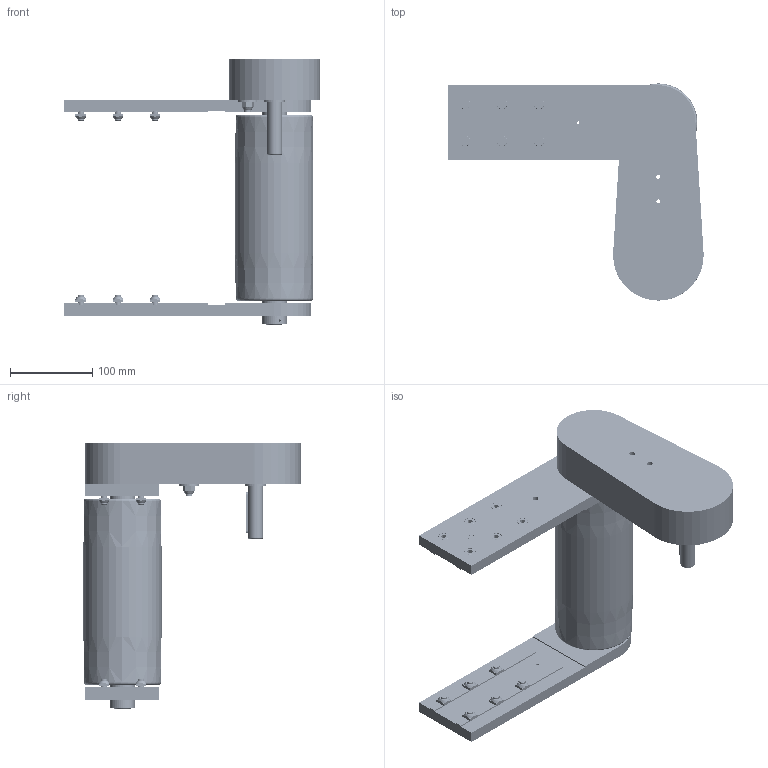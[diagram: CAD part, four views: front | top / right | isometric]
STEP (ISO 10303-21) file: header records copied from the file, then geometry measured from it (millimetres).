
FILE_DESCRIPTION (( 'STEP AP203' ), '1' );
FILE_NAME ('084.095.KTC.44.200.STEP', '2019-07-30T07:37:28', ( '' ), ( '' ), 'SwSTEP 2.0', 'SolidWorks 2018', '' );
FILE_SCHEMA (( 'CONFIG_CONTROL_DESIGN' ));
Length unit declared in the file: millimetre
Products named in the file (24): 084.803.012; 084.813.004; CHIAVETTE_A 6x6x50 UNI 6604-69; 084.812.003; 084.803.014; RONDELLE FASCIA LARGA UNI 6593_8.4x24 UNI 6593; 084.809.003; 084.809.001; 084.813.002; 084.802.019_084.802.019; 084.095.KTC.44.200; 084.810.010; 084.816.101_084.816.107<A macchina>; 084.808.002_084.808.002; 084.808.003_084.808.003; 084.810.005; 084.301.000 VITI ALUSIC_084.301.003; 084.802.034_084.802.034; 084.810.004; DADI ESAGONALI AUTOBLOCCANTI UNI 7473 INOX_M8 UNI 7473 INOX; 084.302.000 DADI ALUSIC 13x13_084.302.004; Circlip DIN 471 - 8 x 0.8_Circlip DIN 471 - 8 x 0.8; 084.810.003; CUSCINETTI A SFERE_608-2RS
Assembly tree (48 placements, depth 3):
  084.095.KTC.44.200
    084.816.101_084.816.107<A macchina>
    084.812.003
    084.813.002
    084.810.003  x2
    084.802.034_084.802.034
    084.802.019_084.802.019
    084.808.003_084.808.003
    084.808.002_084.808.002
    084.809.001
    084.803.014  x2
    084.803.012
    CHIAVETTE_A 6x6x50 UNI 6604-69
    084.810.005
      084.810.010
      084.810.004
      CUSCINETTI A SFERE_608-2RS  x2
      Circlip DIN 471 - 8 x 0.8_Circlip DIN 471 - 8 x 0.8
      RONDELLE FASCIA LARGA UNI 6593_8.4x24 UNI 6593
      DADI ESAGONALI AUTOBLOCCANTI UNI 7473 INOX_M8 UNI 7473 INOX
    084.809.003
    084.301.000 VITI ALUSIC_084.301.003  x12
    084.302.000 DADI ALUSIC 13x13_084.302.004  x12
    084.813.004
Bounding box: 310 x 264 x 323.5 mm (x, y, z)
Volume: 1654907.9 mm3; surface area: 699651.5 mm2
Topology: 77 solids, 78 shells, 3204 faces, 7597 edges, 4867 vertices
Faces by surface type: cylinder 1475, plane 908, bspline 516, cone 186, torus 110, sphere 9
Entity records: 85599 total; most frequent: CARTESIAN_POINT 19733, DIRECTION 14085, ORIENTED_EDGE 12476, EDGE_CURVE 6238, AXIS2_PLACEMENT_3D 5908, VERTEX_POINT 3984, CIRCLE 3712, EDGE_LOOP 3236
